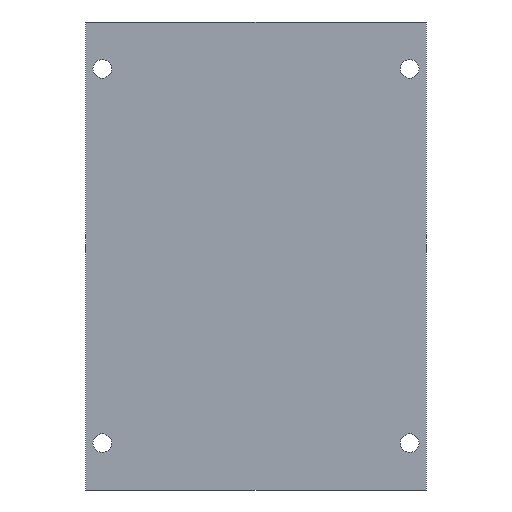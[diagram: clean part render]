
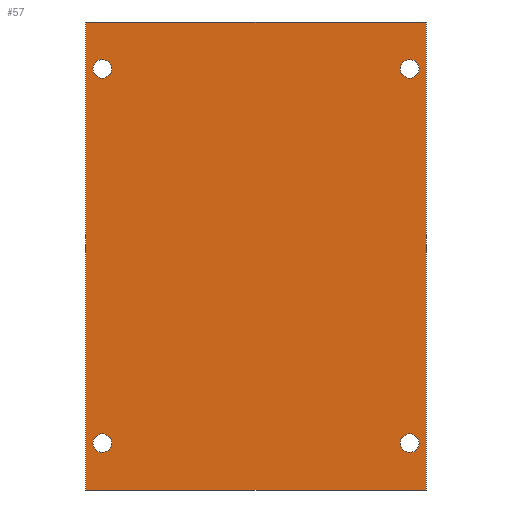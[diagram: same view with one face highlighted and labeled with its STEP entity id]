
A CAD part, front view. The second image highlights one B-rep face of the part: STEP entity #57.
In plain terms, the highlighted planar face has unit normal (0, -1, 0).
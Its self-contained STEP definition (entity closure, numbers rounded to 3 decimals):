
#21 = EDGE_CURVE('',#22,#24,#26,.T.);
#22 = VERTEX_POINT('',#23);
#23 = CARTESIAN_POINT('',(-25.5,7.,40.));
#24 = VERTEX_POINT('',#25);
#25 = CARTESIAN_POINT('',(-25.5,7.,110.));
#26 = LINE('',#27,#28);
#27 = CARTESIAN_POINT('',(-25.5,7.,40.));
#28 = VECTOR('',#29,1.);
#29 = DIRECTION('',(0.,0.,1.));
#57 = ADVANCED_FACE('',(#58,#83,#94,#105,#116),#127,.F.);
#58 = FACE_BOUND('',#59,.F.);
#59 = EDGE_LOOP('',(#60,#68,#69,#77));
#60 = ORIENTED_EDGE('',*,*,#61,.F.);
#61 = EDGE_CURVE('',#22,#62,#64,.T.);
#62 = VERTEX_POINT('',#63);
#63 = CARTESIAN_POINT('',(25.5,7.,40.));
#64 = LINE('',#65,#66);
#65 = CARTESIAN_POINT('',(-25.5,7.,40.));
#66 = VECTOR('',#67,1.);
#67 = DIRECTION('',(1.,0.,0.));
#68 = ORIENTED_EDGE('',*,*,#21,.T.);
#69 = ORIENTED_EDGE('',*,*,#70,.T.);
#70 = EDGE_CURVE('',#24,#71,#73,.T.);
#71 = VERTEX_POINT('',#72);
#72 = CARTESIAN_POINT('',(25.5,7.,110.));
#73 = LINE('',#74,#75);
#74 = CARTESIAN_POINT('',(-25.5,7.,110.));
#75 = VECTOR('',#76,1.);
#76 = DIRECTION('',(1.,0.,0.));
#77 = ORIENTED_EDGE('',*,*,#78,.F.);
#78 = EDGE_CURVE('',#62,#71,#79,.T.);
#79 = LINE('',#80,#81);
#80 = CARTESIAN_POINT('',(25.5,7.,40.));
#81 = VECTOR('',#82,1.);
#82 = DIRECTION('',(0.,0.,1.));
#83 = FACE_BOUND('',#84,.F.);
#84 = EDGE_LOOP('',(#85));
#85 = ORIENTED_EDGE('',*,*,#86,.F.);
#86 = EDGE_CURVE('',#87,#87,#89,.T.);
#87 = VERTEX_POINT('',#88);
#88 = CARTESIAN_POINT('',(-23.,7.,48.4));
#89 = CIRCLE('',#90,1.4);
#90 = AXIS2_PLACEMENT_3D('',#91,#92,#93);
#91 = CARTESIAN_POINT('',(-23.,7.,47.));
#92 = DIRECTION('',(0.,1.,0.));
#93 = DIRECTION('',(0.,0.,1.));
#94 = FACE_BOUND('',#95,.F.);
#95 = EDGE_LOOP('',(#96));
#96 = ORIENTED_EDGE('',*,*,#97,.F.);
#97 = EDGE_CURVE('',#98,#98,#100,.T.);
#98 = VERTEX_POINT('',#99);
#99 = CARTESIAN_POINT('',(-23.,7.,104.4));
#100 = CIRCLE('',#101,1.4);
#101 = AXIS2_PLACEMENT_3D('',#102,#103,#104);
#102 = CARTESIAN_POINT('',(-23.,7.,103.));
#103 = DIRECTION('',(0.,1.,0.));
#104 = DIRECTION('',(0.,0.,1.));
#105 = FACE_BOUND('',#106,.F.);
#106 = EDGE_LOOP('',(#107));
#107 = ORIENTED_EDGE('',*,*,#108,.F.);
#108 = EDGE_CURVE('',#109,#109,#111,.T.);
#109 = VERTEX_POINT('',#110);
#110 = CARTESIAN_POINT('',(23.,7.,48.4));
#111 = CIRCLE('',#112,1.4);
#112 = AXIS2_PLACEMENT_3D('',#113,#114,#115);
#113 = CARTESIAN_POINT('',(23.,7.,47.));
#114 = DIRECTION('',(0.,1.,0.));
#115 = DIRECTION('',(0.,0.,1.));
#116 = FACE_BOUND('',#117,.F.);
#117 = EDGE_LOOP('',(#118));
#118 = ORIENTED_EDGE('',*,*,#119,.F.);
#119 = EDGE_CURVE('',#120,#120,#122,.T.);
#120 = VERTEX_POINT('',#121);
#121 = CARTESIAN_POINT('',(23.,7.,104.4));
#122 = CIRCLE('',#123,1.4);
#123 = AXIS2_PLACEMENT_3D('',#124,#125,#126);
#124 = CARTESIAN_POINT('',(23.,7.,103.));
#125 = DIRECTION('',(0.,1.,0.));
#126 = DIRECTION('',(0.,0.,1.));
#127 = PLANE('',#128);
#128 = AXIS2_PLACEMENT_3D('',#129,#130,#131);
#129 = CARTESIAN_POINT('',(-25.5,7.,40.));
#130 = DIRECTION('',(0.,1.,0.));
#131 = DIRECTION('',(0.,0.,1.));
